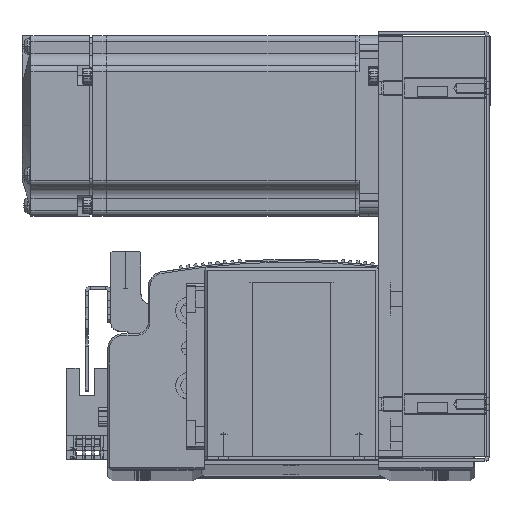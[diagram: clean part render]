
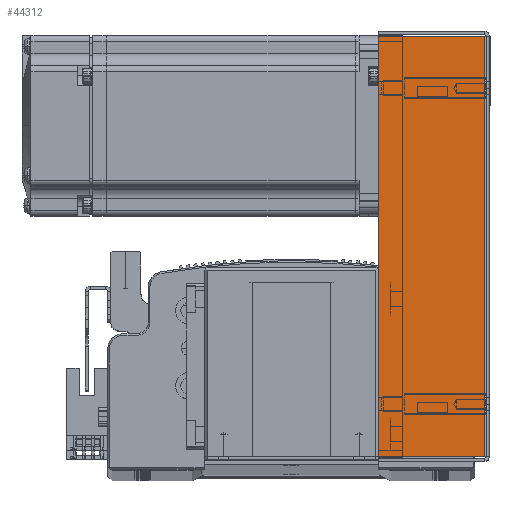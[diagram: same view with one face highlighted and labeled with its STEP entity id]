
A CAD part, top view. The second image highlights one B-rep face of the part: STEP entity #44312.
In plain terms, the highlighted planar face has unit normal (0, 0, 1) as drawn and (0, 0, -1) by its records, which use the part's own axes.
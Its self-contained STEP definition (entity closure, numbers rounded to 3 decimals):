
#3815 = AXIS2_PLACEMENT_3D ( 'NONE', #71368, #71379, #71373 ) ;
#8880 = VECTOR ( 'NONE', #26014, 1000. ) ;
#8896 = VECTOR ( 'NONE', #25972, 1000. ) ;
#8909 = VECTOR ( 'NONE', #26048, 1000. ) ;
#8929 = LINE ( 'NONE', #25949, #8880 ) ;
#8932 = LINE ( 'NONE', #25951, #8896 ) ;
#8937 = LINE ( 'NONE', #26026, #8909 ) ;
#9040 = LINE ( 'NONE', #26072, #9043 ) ;
#9043 = VECTOR ( 'NONE', #26080, 1000. ) ;
#18830 = CARTESIAN_POINT ( 'NONE',  ( -69.793, 0.737, -33.5 ) ) ;
#18955 = CARTESIAN_POINT ( 'NONE',  ( 69.793, 36., -33.5 ) ) ;
#18968 = CARTESIAN_POINT ( 'NONE',  ( 69.793, 0.737, -33.5 ) ) ;
#19039 = CARTESIAN_POINT ( 'NONE',  ( -69.793, 36., -33.5 ) ) ;
#25949 = CARTESIAN_POINT ( 'NONE',  ( 71.5, 0.737, -33.5 ) ) ;
#25951 = CARTESIAN_POINT ( 'NONE',  ( -69.793, 0., -33.5 ) ) ;
#25972 = DIRECTION ( 'NONE',  ( 0., 1., 0. ) ) ;
#26014 = DIRECTION ( 'NONE',  ( 1., 0., 0. ) ) ;
#26026 = CARTESIAN_POINT ( 'NONE',  ( 0., 36., -33.5 ) ) ;
#26048 = DIRECTION ( 'NONE',  ( 1., 0., 0. ) ) ;
#26072 = CARTESIAN_POINT ( 'NONE',  ( 69.793, 0., -33.5 ) ) ;
#26080 = DIRECTION ( 'NONE',  ( 0., 1., 0. ) ) ;
#37989 = FACE_OUTER_BOUND ( 'NONE', #96857, .T. ) ;
#44312 = ADVANCED_FACE ( 'NONE', ( #37989 ), #71401, .F. ) ;
#59197 = ORIENTED_EDGE ( 'NONE', *, *, #82583, .T. ) ;
#59199 = ORIENTED_EDGE ( 'NONE', *, *, #82526, .T. ) ;
#59206 = ORIENTED_EDGE ( 'NONE', *, *, #82542, .F. ) ;
#59221 = ORIENTED_EDGE ( 'NONE', *, *, #82602, .F. ) ;
#71368 = CARTESIAN_POINT ( 'NONE',  ( 0., 0., -33.5 ) ) ;
#71373 = DIRECTION ( 'NONE',  ( 0., -1., 0. ) ) ;
#71379 = DIRECTION ( 'NONE',  ( 0., 0., 1. ) ) ;
#71401 = PLANE ( 'NONE',  #3815 ) ;
#82526 = EDGE_CURVE ( 'NONE', #88419, #88463, #8932, .T. ) ;
#82542 = EDGE_CURVE ( 'NONE', #88419, #88448, #8929, .T. ) ;
#82583 = EDGE_CURVE ( 'NONE', #88463, #88450, #8937, .T. ) ;
#82602 = EDGE_CURVE ( 'NONE', #88448, #88450, #9040, .T. ) ;
#88419 = VERTEX_POINT ( 'NONE', #18830 ) ;
#88448 = VERTEX_POINT ( 'NONE', #18968 ) ;
#88450 = VERTEX_POINT ( 'NONE', #18955 ) ;
#88463 = VERTEX_POINT ( 'NONE', #19039 ) ;
#96857 = EDGE_LOOP ( 'NONE', ( #59206, #59199, #59197, #59221 ) ) ;
